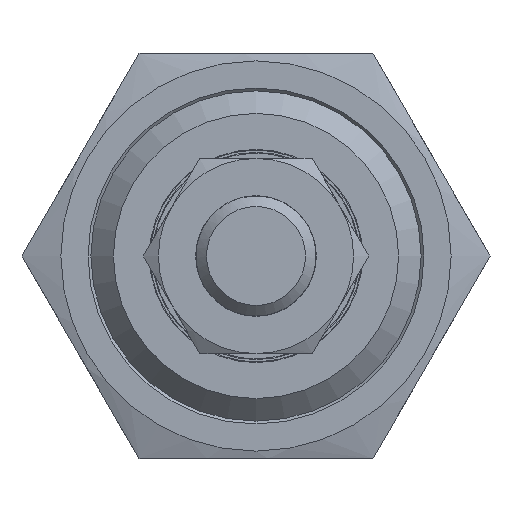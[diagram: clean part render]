
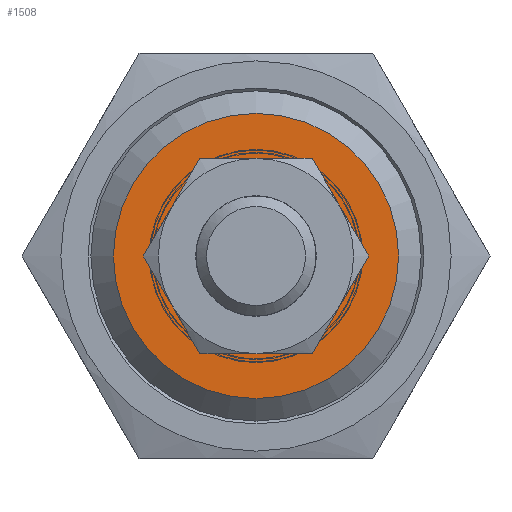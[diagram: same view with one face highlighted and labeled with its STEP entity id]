
A CAD part, front view. The second image highlights one B-rep face of the part: STEP entity #1508.
In plain terms, the highlighted planar face has unit normal (0, -1, 0).
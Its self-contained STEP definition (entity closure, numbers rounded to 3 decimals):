
#232=PLANE('',#2543);
#393=ORIENTED_EDGE('',*,*,#679,.T.);
#394=ORIENTED_EDGE('',*,*,#680,.F.);
#679=EDGE_CURVE('',#846,#846,#977,.T.);
#680=EDGE_CURVE('',#847,#847,#978,.T.);
#846=VERTEX_POINT('',#3345);
#847=VERTEX_POINT('',#3347);
#977=CIRCLE('',#2544,9.5);
#978=CIRCLE('',#2545,6.35);
#1121=EDGE_LOOP('',(#393));
#1122=EDGE_LOOP('',(#394));
#1322=FACE_BOUND('',#1121,.T.);
#1323=FACE_BOUND('',#1122,.T.);
#1508=ADVANCED_FACE('',(#1322,#1323),#232,.T.);
#2543=AXIS2_PLACEMENT_3D('',#3343,#2900,#2901);
#2544=AXIS2_PLACEMENT_3D('',#3344,#2902,#2903);
#2545=AXIS2_PLACEMENT_3D('',#3346,#2904,#2905);
#2900=DIRECTION('',(0.,-1.,0.));
#2901=DIRECTION('',(0.,0.,-1.));
#2902=DIRECTION('',(0.,-1.,0.));
#2903=DIRECTION('',(0.,0.,-1.));
#2904=DIRECTION('',(0.,-1.,0.));
#2905=DIRECTION('',(0.,0.,-1.));
#3343=CARTESIAN_POINT('',(0.,-76.25,5.5));
#3344=CARTESIAN_POINT('',(0.,-76.25,0.));
#3345=CARTESIAN_POINT('',(0.,-76.25,-9.5));
#3346=CARTESIAN_POINT('',(0.,-76.25,0.));
#3347=CARTESIAN_POINT('',(0.,-76.25,-6.35));
